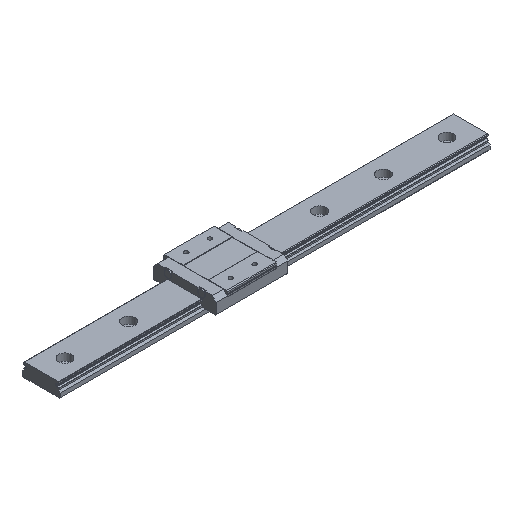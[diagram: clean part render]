
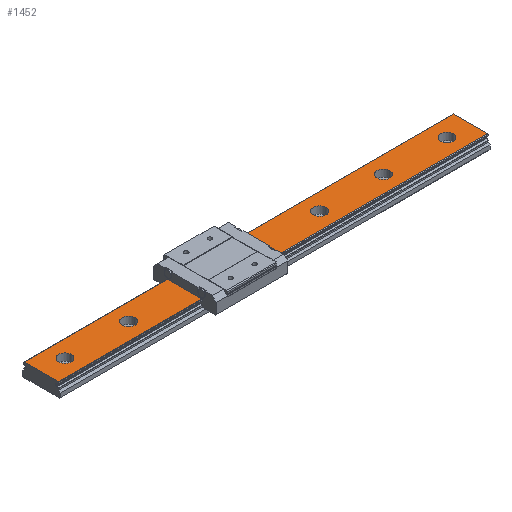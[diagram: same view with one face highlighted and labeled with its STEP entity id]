
A CAD part, isometric view. The second image highlights one B-rep face of the part: STEP entity #1452.
In plain terms, the highlighted planar face has unit normal (0, 0, 1).
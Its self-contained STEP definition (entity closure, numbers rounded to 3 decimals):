
#137=CARTESIAN_POINT('',(259.0,0.,8.5));
#138=VERTEX_POINT('',#137);
#139=CARTESIAN_POINT('',(255.0,0.,8.5));
#140=DIRECTION('',(0.0,0.0,-1.0));
#141=DIRECTION('',(1.0,0.0,0.0));
#142=AXIS2_PLACEMENT_3D('',#139,#140,#141);
#143=CIRCLE('',#142,4.0);
#144=EDGE_CURVE('',#138,#138,#143,.T.);
#247=CARTESIAN_POINT('',(219.,0.,8.5));
#248=VERTEX_POINT('',#247);
#249=CARTESIAN_POINT('',(215.0,0.,8.5));
#250=DIRECTION('',(0.0,0.0,-1.0));
#251=DIRECTION('',(1.0,0.0,0.0));
#252=AXIS2_PLACEMENT_3D('',#249,#250,#251);
#253=CIRCLE('',#252,4.0);
#254=EDGE_CURVE('',#248,#248,#253,.T.);
#357=CARTESIAN_POINT('',(179.,0.,8.5));
#358=VERTEX_POINT('',#357);
#359=CARTESIAN_POINT('',(175.0,0.,8.5));
#360=DIRECTION('',(0.0,0.0,-1.0));
#361=DIRECTION('',(1.0,0.0,0.0));
#362=AXIS2_PLACEMENT_3D('',#359,#360,#361);
#363=CIRCLE('',#362,4.0);
#364=EDGE_CURVE('',#358,#358,#363,.T.);
#467=CARTESIAN_POINT('',(139.0,0.,8.5));
#468=VERTEX_POINT('',#467);
#469=CARTESIAN_POINT('',(135.0,0.,8.5));
#470=DIRECTION('',(0.0,0.0,-1.0));
#471=DIRECTION('',(1.0,0.0,0.0));
#472=AXIS2_PLACEMENT_3D('',#469,#470,#471);
#473=CIRCLE('',#472,4.0);
#474=EDGE_CURVE('',#468,#468,#473,.T.);
#577=CARTESIAN_POINT('',(99.0,0.,8.5));
#578=VERTEX_POINT('',#577);
#579=CARTESIAN_POINT('',(95.0,0.,8.5));
#580=DIRECTION('',(0.0,0.0,-1.0));
#581=DIRECTION('',(1.0,0.0,0.0));
#582=AXIS2_PLACEMENT_3D('',#579,#580,#581);
#583=CIRCLE('',#582,4.0);
#584=EDGE_CURVE('',#578,#578,#583,.T.);
#687=CARTESIAN_POINT('',(59.0,0.,8.5));
#688=VERTEX_POINT('',#687);
#689=CARTESIAN_POINT('',(55.0,0.,8.5));
#690=DIRECTION('',(0.0,0.0,-1.0));
#691=DIRECTION('',(1.0,0.0,0.0));
#692=AXIS2_PLACEMENT_3D('',#689,#690,#691);
#693=CIRCLE('',#692,4.0);
#694=EDGE_CURVE('',#688,#688,#693,.T.);
#797=CARTESIAN_POINT('',(19.0,0.,8.5));
#798=VERTEX_POINT('',#797);
#799=CARTESIAN_POINT('',(15.0,0.,8.5));
#800=DIRECTION('',(0.0,0.0,-1.0));
#801=DIRECTION('',(1.0,0.0,0.0));
#802=AXIS2_PLACEMENT_3D('',#799,#800,#801);
#803=CIRCLE('',#802,4.0);
#804=EDGE_CURVE('',#798,#798,#803,.T.);
#1375=CARTESIAN_POINT('',(270.0,-10.7,8.5));
#1376=VERTEX_POINT('',#1375);
#1383=CARTESIAN_POINT('',(0.0,-10.7,8.5));
#1384=VERTEX_POINT('',#1383);
#1385=CARTESIAN_POINT('',(0.0,-10.7,8.5));
#1386=DIRECTION('',(1.0,0.0,0.0));
#1387=VECTOR('',#1386,270.0);
#1388=LINE('',#1385,#1387);
#1389=EDGE_CURVE('',#1384,#1376,#1388,.T.);
#1401=CARTESIAN_POINT('',(0.0,-10.7,8.5));
#1402=DIRECTION('',(0.0,0.0,1.0));
#1403=DIRECTION('',(1.0,0.0,0.0));
#1404=AXIS2_PLACEMENT_3D('',#1401,#1402,#1403);
#1405=PLANE('',#1404);
#1406=CARTESIAN_POINT('',(270.0,10.7,8.5));
#1407=VERTEX_POINT('',#1406);
#1408=CARTESIAN_POINT('',(270.0,-10.7,8.5));
#1409=DIRECTION('',(0.0,1.0,0.0));
#1410=VECTOR('',#1409,21.4);
#1411=LINE('',#1408,#1410);
#1412=EDGE_CURVE('',#1376,#1407,#1411,.T.);
#1413=ORIENTED_EDGE('',*,*,#1412,.T.);
#1414=CARTESIAN_POINT('',(0.0,10.7,8.5));
#1415=VERTEX_POINT('',#1414);
#1416=CARTESIAN_POINT('',(0.0,10.7,8.5));
#1417=DIRECTION('',(1.0,0.0,0.0));
#1418=VECTOR('',#1417,270.0);
#1419=LINE('',#1416,#1418);
#1420=EDGE_CURVE('',#1415,#1407,#1419,.T.);
#1421=ORIENTED_EDGE('',*,*,#1420,.F.);
#1422=CARTESIAN_POINT('',(0.0,-10.7,8.5));
#1423=DIRECTION('',(0.0,1.0,0.0));
#1424=VECTOR('',#1423,21.4);
#1425=LINE('',#1422,#1424);
#1426=EDGE_CURVE('',#1384,#1415,#1425,.T.);
#1427=ORIENTED_EDGE('',*,*,#1426,.F.);
#1428=ORIENTED_EDGE('',*,*,#1389,.T.);
#1429=EDGE_LOOP('',(#1413,#1421,#1427,#1428));
#1430=FACE_OUTER_BOUND('',#1429,.T.);
#1431=ORIENTED_EDGE('',*,*,#144,.T.);
#1432=EDGE_LOOP('',(#1431));
#1433=FACE_BOUND('',#1432,.T.);
#1434=ORIENTED_EDGE('',*,*,#254,.T.);
#1435=EDGE_LOOP('',(#1434));
#1436=FACE_BOUND('',#1435,.T.);
#1437=ORIENTED_EDGE('',*,*,#364,.T.);
#1438=EDGE_LOOP('',(#1437));
#1439=FACE_BOUND('',#1438,.T.);
#1440=ORIENTED_EDGE('',*,*,#474,.T.);
#1441=EDGE_LOOP('',(#1440));
#1442=FACE_BOUND('',#1441,.T.);
#1443=ORIENTED_EDGE('',*,*,#584,.T.);
#1444=EDGE_LOOP('',(#1443));
#1445=FACE_BOUND('',#1444,.T.);
#1446=ORIENTED_EDGE('',*,*,#694,.T.);
#1447=EDGE_LOOP('',(#1446));
#1448=FACE_BOUND('',#1447,.T.);
#1449=ORIENTED_EDGE('',*,*,#804,.T.);
#1450=EDGE_LOOP('',(#1449));
#1451=FACE_BOUND('',#1450,.T.);
#1452=ADVANCED_FACE('',(#1430,#1433,#1436,#1439,#1442,#1445,#1448,#1451),#1405,.T.);
